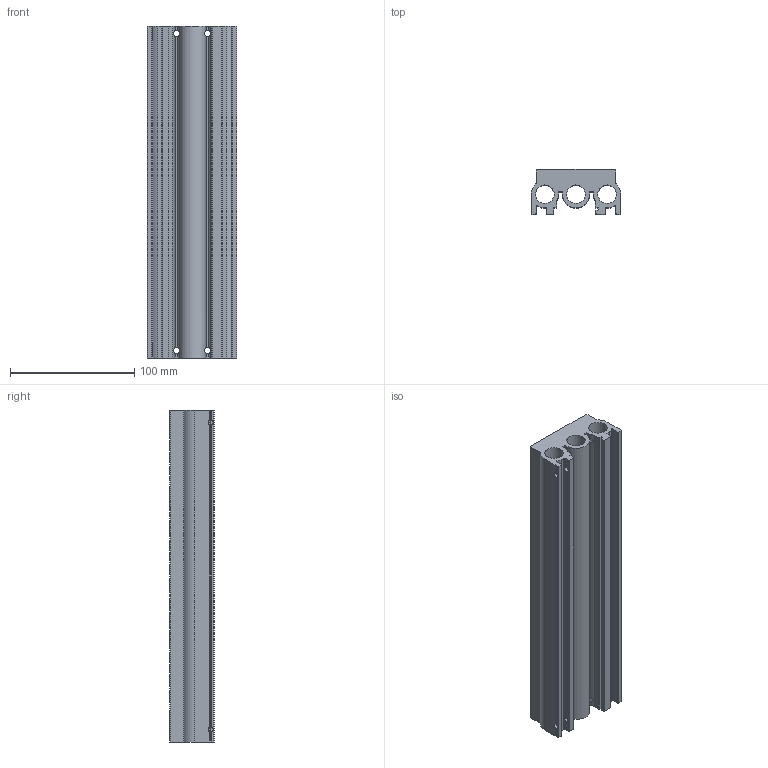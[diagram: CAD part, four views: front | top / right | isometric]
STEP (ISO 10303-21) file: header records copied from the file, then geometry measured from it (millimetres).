
FILE_DESCRIPTION(/* description */ ('COLLETTORE G1/4" 8 POSTI (TECNO-ECO)'),/* implementation_level */ '2;1');
FILE_NAME(/* name */ 'I:\Area Tecnica\Disegni\VARIE-3D\Componenti\T400\T424\T424_##\T424_08.stp',/* time_stamp */ '2015-09-23T13:41:51+02:00',/* author */ ('maniean1'),/* organization */ (''),/* preprocessor_version */ 'ST-DEVELOPER v15.2',/* originating_system */ 'Autodesk Inventor 2014',/* authorisation */ '');
FILE_SCHEMA (('AUTOMOTIVE_DESIGN { 1 0 10303 214 3 1 1 }'));
Length unit declared in the file: millimetre
Products named in the file (1): T424_08
Bounding box: 72 x 36 x 267 mm (x, y, z)
Volume: 380099.7 mm3; surface area: 127843.2 mm2
Topology: 1 solids, 1 shells, 261 faces, 623 edges, 406 vertices
Faces by surface type: cylinder 126, plane 111, cone 24
Full cylindrical faces by diameter (mm): 4 x28, 5.25 x4, 8 x24, 9 x4, 14.9 x3, 16.8 x24
Entity records: 8246 total; most frequent: CARTESIAN_POINT 2358, DIRECTION 1240, ORIENTED_EDGE 1008, AXIS2_PLACEMENT_3D 524, EDGE_CURVE 504, EDGE_LOOP 484, VERTEX_POINT 398, ADVANCED_FACE 261
